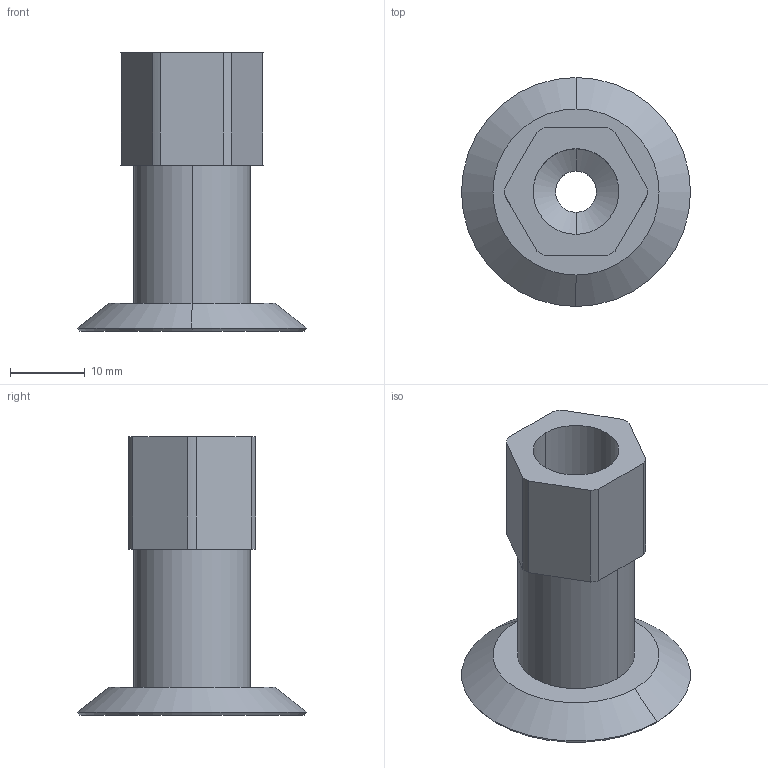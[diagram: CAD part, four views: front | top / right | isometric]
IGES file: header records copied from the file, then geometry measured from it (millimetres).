
Start section: 3D InterOp IGES (v. 2018 1.0.2), Spatial Corp. Copyright (c) 1999-2017.
Global section: file name: schmalz_10_01_01_00790_eybaow0tspm24ayf2pym0h820.igs; native system: Spatial Corp.; preprocessor: 3D InterOp ACIS/IGES; author: TraceParts; organization: TraceParts S.A.; date: 20181017.093713; units: millimetre
Bounding box: 30.6 x 30.6 x 37.2 mm (x, y, z)
Surface area: 4504 mm2 (no closed solid volume)
Topology: 0 solids, 0 shells, 43 faces, 200 edges, 200 vertices
Faces by surface type: revolution 24, extrusion 19
